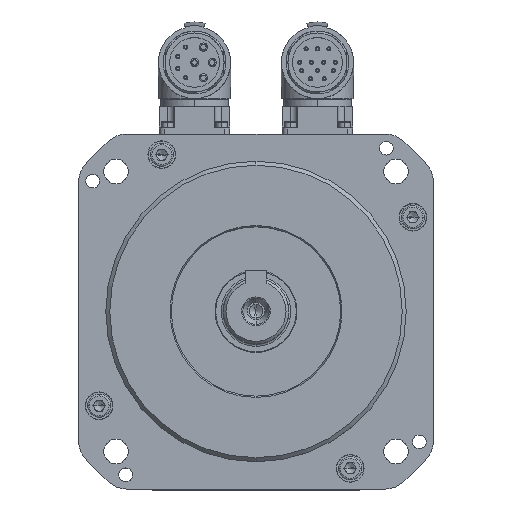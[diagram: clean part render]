
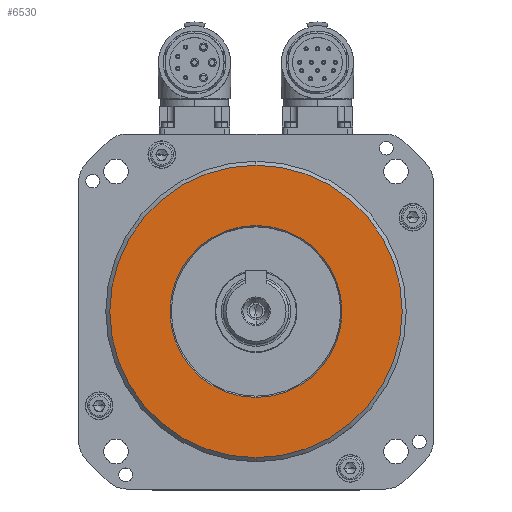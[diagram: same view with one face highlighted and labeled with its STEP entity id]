
A CAD part, top view. The second image highlights one B-rep face of the part: STEP entity #6530.
In plain terms, the highlighted planar face has unit normal (0, 0, 1).
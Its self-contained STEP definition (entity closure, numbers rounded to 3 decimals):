
#2822 = CARTESIAN_POINT ( 'NONE',  ( 0., 0., 66.8 ) ) ;
#4243 = CARTESIAN_POINT ( 'NONE',  ( 0., 0., 66.8 ) ) ;
#5477 = DIRECTION ( 'NONE',  ( 0., 0., 1. ) ) ;
#5973 = ORIENTED_EDGE ( 'NONE', *, *, #18589, .F. ) ;
#6530 = ADVANCED_FACE ( 'NONE', ( #55417, #23763 ), #32711, .T. ) ;
#6937 = CARTESIAN_POINT ( 'NONE',  ( 0., 0., 66.8 ) ) ;
#7668 = DIRECTION ( 'NONE',  ( 0., -1., 0. ) ) ;
#11547 = DIRECTION ( 'NONE',  ( 0., 0., 1. ) ) ;
#18589 = EDGE_CURVE ( 'NONE', #53387, #30084, #30406, .T. ) ;
#21031 = DIRECTION ( 'NONE',  ( 0., -1., 0. ) ) ;
#23763 = FACE_OUTER_BOUND ( 'NONE', #50282, .T. ) ;
#23874 = AXIS2_PLACEMENT_3D ( 'NONE', #6937, #11547, #21031 ) ;
#25720 = EDGE_LOOP ( 'NONE', ( #5973, #32484 ) ) ;
#28043 = DIRECTION ( 'NONE',  ( 0., -1., 0. ) ) ;
#28083 = VERTEX_POINT ( 'NONE', #48883 ) ;
#29628 = CARTESIAN_POINT ( 'NONE',  ( 0., 31.481, 66.8 ) ) ;
#30084 = VERTEX_POINT ( 'NONE', #49850 ) ;
#30406 = CIRCLE ( 'NONE', #61503, 31.481 ) ;
#32484 = ORIENTED_EDGE ( 'NONE', *, *, #44903, .F. ) ;
#32490 = AXIS2_PLACEMENT_3D ( 'NONE', #36594, #45333, #35068 ) ;
#32711 = PLANE ( 'NONE',  #35899 ) ;
#34103 = ORIENTED_EDGE ( 'NONE', *, *, #37261, .T. ) ;
#35068 = DIRECTION ( 'NONE',  ( 0., -1., 0. ) ) ;
#35899 = AXIS2_PLACEMENT_3D ( 'NONE', #4243, #57292, #28043 ) ;
#36594 = CARTESIAN_POINT ( 'NONE',  ( 0., 0., 66.8 ) ) ;
#37261 = EDGE_CURVE ( 'NONE', #28083, #41346, #51795, .T. ) ;
#39212 = DIRECTION ( 'NONE',  ( 0., -1., 0. ) ) ;
#40141 = AXIS2_PLACEMENT_3D ( 'NONE', #49093, #5477, #39212 ) ;
#41346 = VERTEX_POINT ( 'NONE', #45592 ) ;
#42498 = EDGE_CURVE ( 'NONE', #41346, #28083, #44225, .T. ) ;
#43276 = CIRCLE ( 'NONE', #40141, 31.481 ) ;
#44225 = CIRCLE ( 'NONE', #23874, 53.54 ) ;
#44903 = EDGE_CURVE ( 'NONE', #30084, #53387, #43276, .T. ) ;
#45333 = DIRECTION ( 'NONE',  ( 0., 0., 1. ) ) ;
#45592 = CARTESIAN_POINT ( 'NONE',  ( 0., -53.54, 66.8 ) ) ;
#48883 = CARTESIAN_POINT ( 'NONE',  ( 0., 53.54, 66.8 ) ) ;
#49093 = CARTESIAN_POINT ( 'NONE',  ( 0., 0., 66.8 ) ) ;
#49850 = CARTESIAN_POINT ( 'NONE',  ( 0., -31.481, 66.8 ) ) ;
#50282 = EDGE_LOOP ( 'NONE', ( #34103, #51856 ) ) ;
#51795 = CIRCLE ( 'NONE', #32490, 53.54 ) ;
#51856 = ORIENTED_EDGE ( 'NONE', *, *, #42498, .T. ) ;
#53387 = VERTEX_POINT ( 'NONE', #29628 ) ;
#55417 = FACE_BOUND ( 'NONE', #25720, .T. ) ;
#57292 = DIRECTION ( 'NONE',  ( 0., 0., 1. ) ) ;
#59915 = DIRECTION ( 'NONE',  ( 0., 0., 1. ) ) ;
#61503 = AXIS2_PLACEMENT_3D ( 'NONE', #2822, #59915, #7668 ) ;
